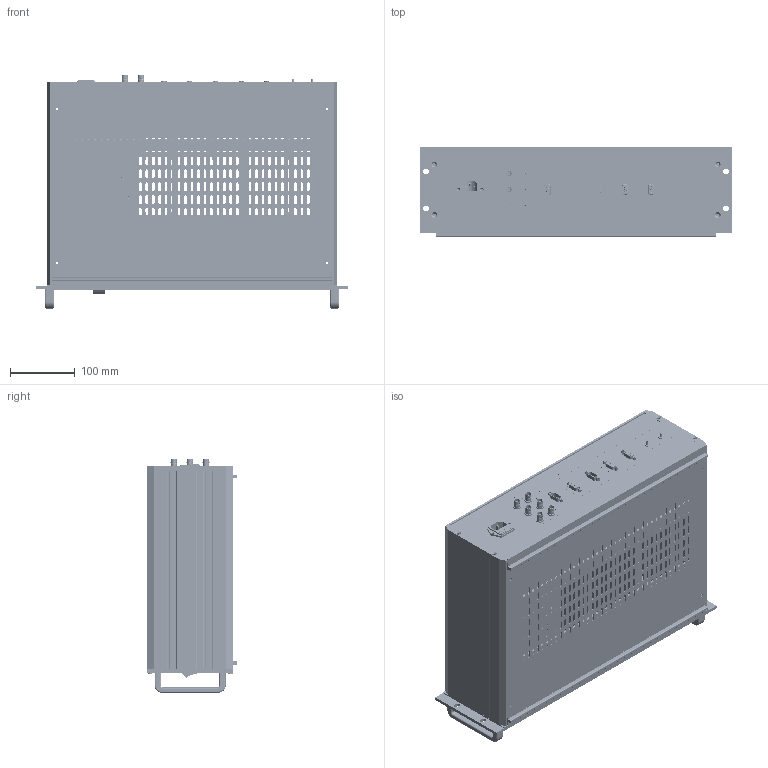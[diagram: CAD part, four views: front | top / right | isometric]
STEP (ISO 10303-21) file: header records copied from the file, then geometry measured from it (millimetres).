
FILE_DESCRIPTION (( 'STEP AP203' ), '1' );
FILE_NAME ('E00.D10AL.STEP', '2025-07-11T02:42:59', ( 'China' ), ( 'Home' ), 'SwSTEP 2.0', 'SolidWorks 2016', '' );
FILE_SCHEMA (( 'CONFIG_CONTROL_DESIGN' ));
Length unit declared in the file: millimetre
Products named in the file (1): E00.D10AL
Bounding box: 481.8 x 139.9 x 361.15 mm (x, y, z)
Surface area: 1366899.9 mm2 (no closed solid volume)
Topology: 0 solids, 322 shells, 3752 faces, 19114 edges, 15558 vertices
Faces by surface type: plane 2050, cylinder 1414, bspline 116, cone 95, torus 39, sphere 38
Entity records: 221655 total; most frequent: CARTESIAN_POINT 72714, DIRECTION 27886, ORIENTED_EDGE 27569, EDGE_CURVE 19038, VERTEX_POINT 15520, VECTOR 12812, LINE 12812, AXIS2_PLACEMENT_3D 7537
